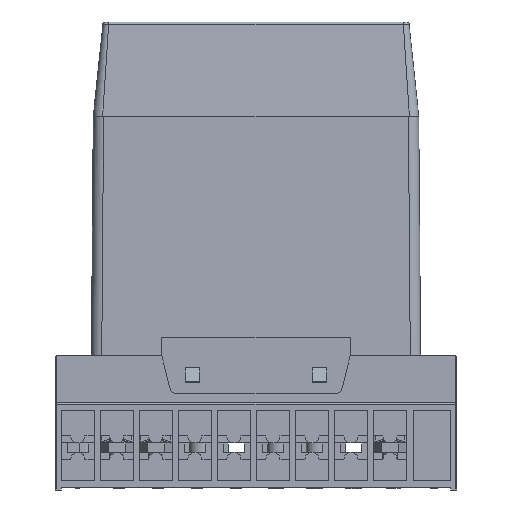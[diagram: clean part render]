
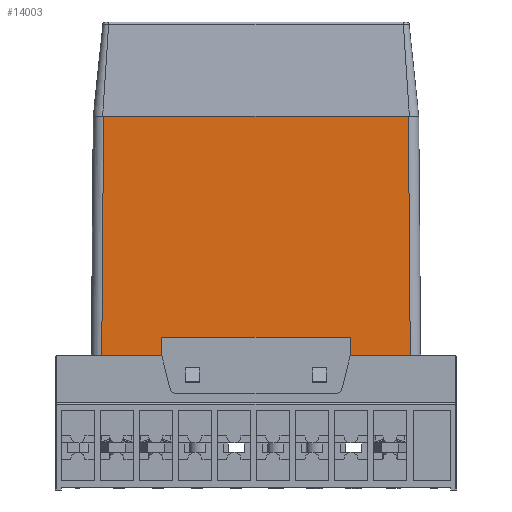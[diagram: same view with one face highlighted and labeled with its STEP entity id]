
A CAD part, left-side view. The second image highlights one B-rep face of the part: STEP entity #14003.
In plain terms, the highlighted planar face has unit normal (-1, 0, 0.008).
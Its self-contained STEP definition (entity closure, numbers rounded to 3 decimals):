
#14003=ADVANCED_FACE('',(#64965),#64967,.T.);
#64965=FACE_BOUND('',#64966,.T.);
#64966=EDGE_LOOP('',(#117708,#117709,#117710,#117711,#117712,#117713,#117714,#117715));
#64967=PLANE('',#64968);
#64968=AXIS2_PLACEMENT_3D('',#64969,#64970,#64971);
#64969=CARTESIAN_POINT('',(-19.231,-31.4,79.));
#64970=DIRECTION('',(-1.,0.,0.008));
#64971=DIRECTION('',(0.,1.,0.));
#117708=ORIENTED_EDGE('',*,*,#148908,.F.);
#117709=ORIENTED_EDGE('',*,*,#148909,.F.);
#117710=ORIENTED_EDGE('',*,*,#145070,.F.);
#117711=ORIENTED_EDGE('',*,*,#148898,.F.);
#117712=ORIENTED_EDGE('',*,*,#148910,.T.);
#117713=ORIENTED_EDGE('',*,*,#148911,.T.);
#117714=ORIENTED_EDGE('',*,*,#145084,.F.);
#117715=ORIENTED_EDGE('',*,*,#148912,.F.);
#145070=EDGE_CURVE('',#164173,#164175,#164176,.T.);
#145084=EDGE_CURVE('',#164194,#164197,#164198,.T.);
#148898=EDGE_CURVE('',#170346,#164173,#170348,.T.);
#148908=EDGE_CURVE('',#170364,#170365,#170366,.T.);
#148909=EDGE_CURVE('',#164175,#170364,#170367,.T.);
#148910=EDGE_CURVE('',#170346,#170368,#170369,.T.);
#148911=EDGE_CURVE('',#170368,#164197,#170370,.T.);
#148912=EDGE_CURVE('',#170365,#164194,#170371,.T.);
#164173=VERTEX_POINT('',#197919);
#164175=VERTEX_POINT('',#197924);
#164176=LINE('',#197925,#197926);
#164194=VERTEX_POINT('',#197969);
#164197=VERTEX_POINT('',#197976);
#164198=LINE('',#197977,#197978);
#170346=VERTEX_POINT('',#212608);
#170348=LINE('',#212613,#212614);
#170364=VERTEX_POINT('',#212657);
#170365=VERTEX_POINT('',#212658);
#170366=LINE('',#212659,#212660);
#170367=LINE('',#212662,#212663);
#170368=VERTEX_POINT('',#212665);
#170369=LINE('',#212666,#212667);
#170370=LINE('',#212669,#212670);
#170371=LINE('',#212672,#212673);
#197919=CARTESIAN_POINT('',(-19.631,-31.8,28.));
#197924=CARTESIAN_POINT('',(-19.631,-19.,28.));
#197925=CARTESIAN_POINT('',(-19.631,-31.8,28.));
#197926=VECTOR('',#197927,1.);
#197927=DIRECTION('',(0.,1.,0.));
#197969=CARTESIAN_POINT('',(-19.631,21.,28.));
#197976=CARTESIAN_POINT('',(-19.631,33.8,28.));
#197977=CARTESIAN_POINT('',(-19.631,21.,28.));
#197978=VECTOR('',#197979,1.);
#197979=DIRECTION('',(0.,1.,0.));
#212608=CARTESIAN_POINT('',(-19.231,-31.4,79.));
#212613=CARTESIAN_POINT('',(-19.231,-31.4,79.));
#212614=VECTOR('',#212615,1.);
#212615=DIRECTION('',(-0.008,-0.008,-1.));
#212657=CARTESIAN_POINT('',(-19.6,-19.,32.));
#212658=CARTESIAN_POINT('',(-19.6,21.,32.));
#212659=CARTESIAN_POINT('',(-19.6,-19.,32.));
#212660=VECTOR('',#212661,1.);
#212661=DIRECTION('',(0.,1.,0.));
#212662=CARTESIAN_POINT('',(-19.631,-19.,28.));
#212663=VECTOR('',#212664,1.);
#212664=DIRECTION('',(0.008,0.,1.));
#212665=CARTESIAN_POINT('',(-19.231,33.4,79.));
#212666=CARTESIAN_POINT('',(-19.231,-31.4,79.));
#212667=VECTOR('',#212668,1.);
#212668=DIRECTION('',(0.,1.,0.));
#212669=CARTESIAN_POINT('',(-19.231,33.4,79.));
#212670=VECTOR('',#212671,1.);
#212671=DIRECTION('',(-0.008,0.008,-1.));
#212672=CARTESIAN_POINT('',(-19.6,21.,32.));
#212673=VECTOR('',#212674,1.);
#212674=DIRECTION('',(-0.008,0.,-1.));
